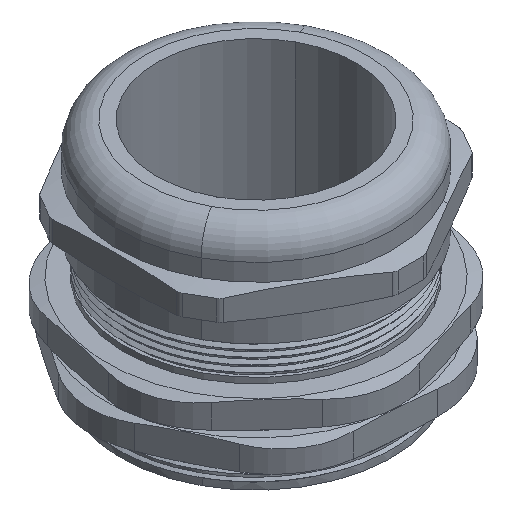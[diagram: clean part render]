
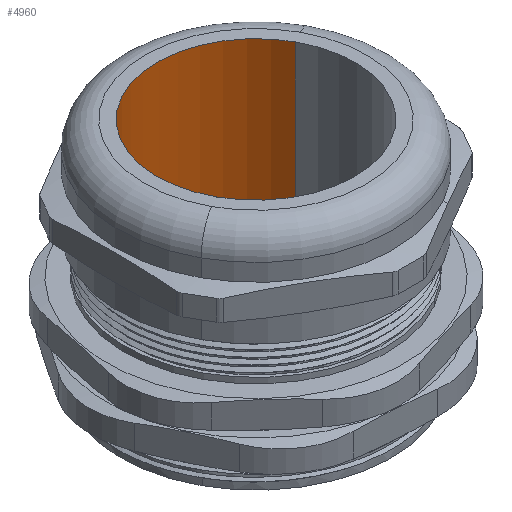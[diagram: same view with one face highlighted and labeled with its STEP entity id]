
A CAD part, isometric view. The second image highlights one B-rep face of the part: STEP entity #4960.
In plain terms, the highlighted cylindrical face has radius 22.4 mm (diameter 44.8 mm), a partial arc.
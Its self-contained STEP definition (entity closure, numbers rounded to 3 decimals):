
#4848=CARTESIAN_POINT('Vertex',(-19.658,-10.739,51.)) ;
#4850=CARTESIAN_POINT('Vertex',(19.658,10.739,51.)) ;
#4853=CARTESIAN_POINT('Axis2P3D Location',(0.,0.,51.)) ;
#4918=CARTESIAN_POINT('Axis2P3D Location',(0.,0.,25.5)) ;
#4923=CARTESIAN_POINT('Line Origine',(19.658,10.739,33.7)) ;
#4927=CARTESIAN_POINT('Vertex',(19.658,10.739,16.4)) ;
#4934=CARTESIAN_POINT('Vertex',(-19.658,-10.739,16.4)) ;
#4937=CARTESIAN_POINT('Line Origine',(-19.658,-10.739,33.7)) ;
#4949=CARTESIAN_POINT('Axis2P3D Location',(0.,0.,16.4)) ;
#4854=DIRECTION('Axis2P3D Direction',(0.,0.,1.)) ;
#4919=DIRECTION('Axis2P3D Direction',(0.,0.,1.)) ;
#4920=DIRECTION('Axis2P3D XDirection',(-0.878,-0.479,-0.)) ;
#4924=DIRECTION('Vector Direction',(0.,0.,1.)) ;
#4938=DIRECTION('Vector Direction',(0.,0.,1.)) ;
#4950=DIRECTION('Axis2P3D Direction',(0.,0.,1.)) ;
#4855=AXIS2_PLACEMENT_3D('Circle Axis2P3D',#4853,#4854,$) ;
#4921=AXIS2_PLACEMENT_3D('Cylinder Axis2P3D',#4918,#4919,#4920) ;
#4951=AXIS2_PLACEMENT_3D('Circle Axis2P3D',#4949,#4950,$) ;
#4955=ORIENTED_EDGE('',*,*,#4857,.T.) ;
#4956=ORIENTED_EDGE('',*,*,#4941,.T.) ;
#4957=ORIENTED_EDGE('',*,*,#4953,.F.) ;
#4958=ORIENTED_EDGE('',*,*,#4929,.F.) ;
#4925=VECTOR('Line Direction',#4924,1.) ;
#4939=VECTOR('Line Direction',#4938,1.) ;
#4960=ADVANCED_FACE('\X2\51E04F554F53\X0\.2',(#4959),#4922,.F.) ;
#4856=CIRCLE('generated circle',#4855,22.4) ;
#4952=CIRCLE('generated circle',#4951,22.4) ;
#4922=CYLINDRICAL_SURFACE('generated cylinder',#4921,22.4) ;
#4857=EDGE_CURVE('',#4851,#4849,#4856,.T.) ;
#4929=EDGE_CURVE('',#4851,#4928,#4926,.F.) ;
#4941=EDGE_CURVE('',#4849,#4935,#4940,.F.) ;
#4953=EDGE_CURVE('',#4928,#4935,#4952,.T.) ;
#4954=EDGE_LOOP('',(#4955,#4956,#4957,#4958)) ;
#4959=FACE_OUTER_BOUND('',#4954,.T.) ;
#4926=LINE('Line',#4923,#4925) ;
#4940=LINE('Line',#4937,#4939) ;
#4849=VERTEX_POINT('',#4848) ;
#4851=VERTEX_POINT('',#4850) ;
#4928=VERTEX_POINT('',#4927) ;
#4935=VERTEX_POINT('',#4934) ;
